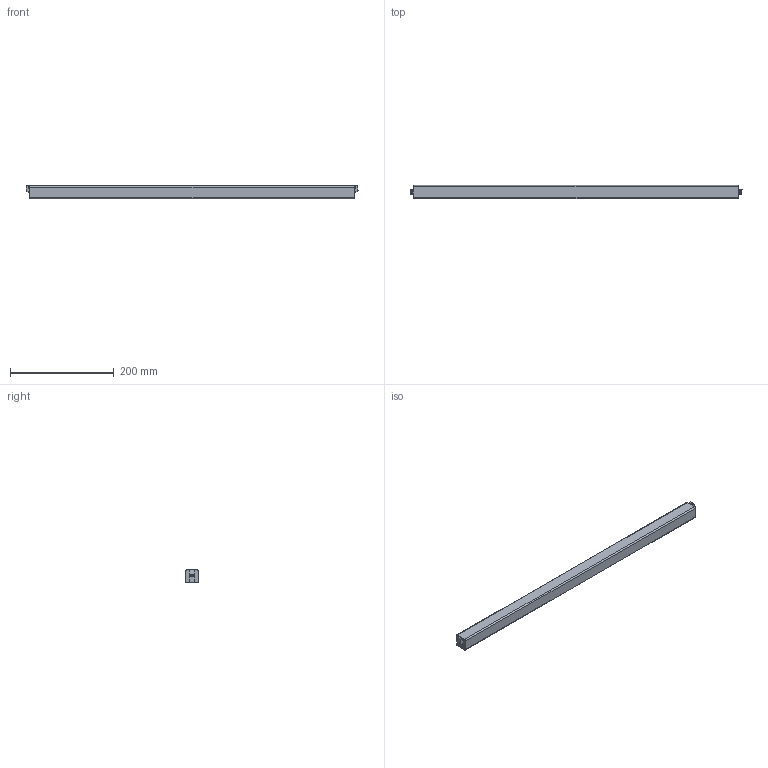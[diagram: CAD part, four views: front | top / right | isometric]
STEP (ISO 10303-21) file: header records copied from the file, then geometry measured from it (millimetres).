
FILE_DESCRIPTION (( 'STEP AP214' ), '1' );
FILE_NAME ('705419.STEP', '2025-10-01T11:02:26', ( '' ), ( '' ), 'SwSTEP 2.0', 'SolidWorks 2025', '' );
FILE_SCHEMA (( 'AUTOMOTIVE_DESIGN' ));
Length unit declared in the file: millimetre
Products named in the file (1): 705419
Bounding box: 638.6 x 25 x 26.5 mm (x, y, z)
Volume: 393883.7 mm3; surface area: 65091.7 mm2
Topology: 3 solids, 3 shells, 77 faces, 211 edges, 140 vertices
Faces by surface type: plane 44, cylinder 33
Entity records: 2498 total; most frequent: DIRECTION 435, CARTESIAN_POINT 429, ORIENTED_EDGE 422, EDGE_CURVE 211, AXIS2_PLACEMENT_3D 146, LINE 143, VECTOR 143, VERTEX_POINT 140
